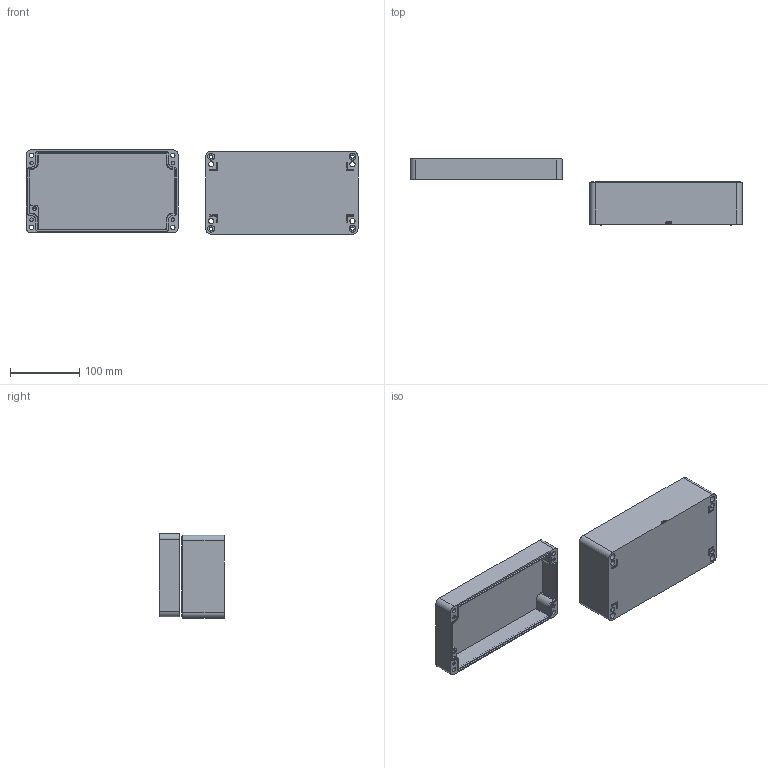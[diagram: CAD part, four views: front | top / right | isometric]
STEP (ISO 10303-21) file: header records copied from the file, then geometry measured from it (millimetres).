
FILE_DESCRIPTION (( 'STEP AP203' ), '1' );
FILE_NAME ('ZX-AL-122209_装配体.STEP', '2022-01-24T08:48:26', ( '微软用户' ), ( '微软中国' ), 'SwSTEP 2.0', 'SolidWorks 2020', '' );
FILE_SCHEMA (( 'CONFIG_CONTROL_DESIGN' ));
Length unit declared in the file: millimetre
Products named in the file (3): ZX-AL-122209_奻; ZX-AL-122209_狟; ZX-AL-122209_蚾饜极
Assembly tree (2 placements, depth 2):
  ZX-AL-122209_蚾饜极
    ZX-AL-122209_狟
    ZX-AL-122209_奻
Bounding box: 479.57 x 95.17 x 122.06 mm (x, y, z)
Volume: 472810 mm3; surface area: 240206.5 mm2
Topology: 2 solids, 2 shells, 673 faces, 1818 edges, 1185 vertices
Faces by surface type: plane 346, cylinder 168, bspline 123, cone 36
Entity records: 26875 total; most frequent: CARTESIAN_POINT 10318, ORIENTED_EDGE 3608, DIRECTION 2954, EDGE_CURVE 1804, VECTOR 1224, LINE 1224, VERTEX_POINT 1185, AXIS2_PLACEMENT_3D 865
